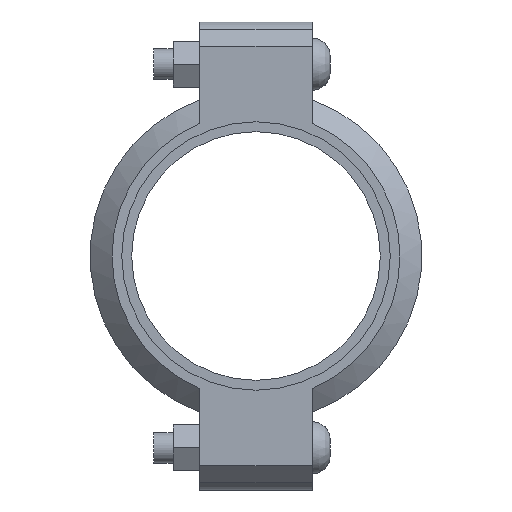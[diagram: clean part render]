
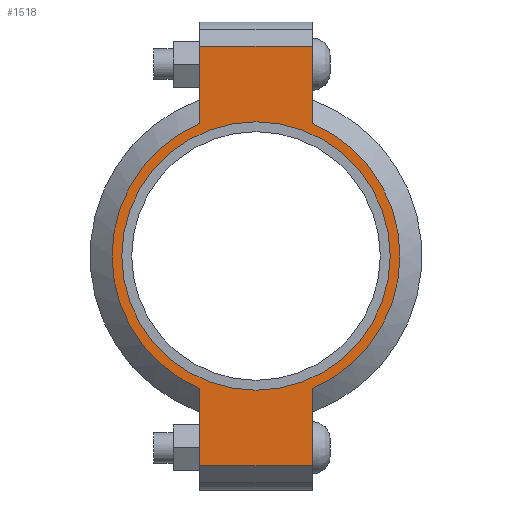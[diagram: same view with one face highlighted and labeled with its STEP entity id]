
A CAD part, left-side view. The second image highlights one B-rep face of the part: STEP entity #1518.
In plain terms, the highlighted planar face has unit normal (-1, 0, 0) as drawn and (0, 0, 1) by its records, which use the part's own axes.
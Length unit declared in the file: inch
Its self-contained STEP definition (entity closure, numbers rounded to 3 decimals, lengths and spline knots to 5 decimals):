
#142=LINE('',#2658,#235);
#150=LINE('',#2694,#243);
#157=LINE('',#2715,#250);
#166=LINE('',#2747,#259);
#167=LINE('',#2751,#260);
#168=LINE('',#2753,#261);
#235=VECTOR('',#2174,0.3937);
#243=VECTOR('',#2190,0.3937);
#250=VECTOR('',#2209,0.3937);
#259=VECTOR('',#2234,0.3937);
#260=VECTOR('',#2239,0.3937);
#261=VECTOR('',#2240,0.3937);
#317=FACE_BOUND('',#495,.T.);
#389=FACE_OUTER_BOUND('',#494,.T.);
#494=EDGE_LOOP('',(#1259,#1260,#1261,#1262,#1263,#1264,#1265,#1266));
#495=EDGE_LOOP('',(#1267));
#567=CIRCLE('',#1746,2.75);
#593=CIRCLE('',#1805,2.95);
#594=CIRCLE('',#1806,2.95);
#659=VERTEX_POINT('',#2474);
#702=VERTEX_POINT('',#2655);
#703=VERTEX_POINT('',#2657);
#714=VERTEX_POINT('',#2689);
#715=VERTEX_POINT('',#2693);
#722=VERTEX_POINT('',#2712);
#723=VERTEX_POINT('',#2714);
#733=VERTEX_POINT('',#2750);
#734=VERTEX_POINT('',#2752);
#815=EDGE_CURVE('',#659,#659,#567,.T.);
#876=EDGE_CURVE('',#703,#702,#142,.T.);
#890=EDGE_CURVE('',#715,#714,#150,.T.);
#900=EDGE_CURVE('',#723,#722,#157,.T.);
#915=EDGE_CURVE('',#715,#702,#166,.T.);
#916=EDGE_CURVE('',#714,#723,#593,.T.);
#917=EDGE_CURVE('',#733,#722,#167,.T.);
#918=EDGE_CURVE('',#733,#734,#168,.T.);
#919=EDGE_CURVE('',#734,#703,#594,.T.);
#1259=ORIENTED_EDGE('',*,*,#915,.F.);
#1260=ORIENTED_EDGE('',*,*,#890,.T.);
#1261=ORIENTED_EDGE('',*,*,#916,.T.);
#1262=ORIENTED_EDGE('',*,*,#900,.T.);
#1263=ORIENTED_EDGE('',*,*,#917,.F.);
#1264=ORIENTED_EDGE('',*,*,#918,.T.);
#1265=ORIENTED_EDGE('',*,*,#919,.T.);
#1266=ORIENTED_EDGE('',*,*,#876,.T.);
#1267=ORIENTED_EDGE('',*,*,#815,.T.);
#1360=PLANE('',#1804);
#1518=ADVANCED_FACE('',(#389,#317),#1360,.T.);
#1746=AXIS2_PLACEMENT_3D('',#2476,#2050,#2051);
#1804=AXIS2_PLACEMENT_3D('',#2748,#2235,#2236);
#1805=AXIS2_PLACEMENT_3D('',#2749,#2237,#2238);
#1806=AXIS2_PLACEMENT_3D('',#2754,#2241,#2242);
#2050=DIRECTION('center_axis',(0.,0.,-1.));
#2051=DIRECTION('ref_axis',(1.,0.,0.));
#2174=DIRECTION('',(1.,0.,0.));
#2190=DIRECTION('',(-1.,0.,0.));
#2209=DIRECTION('',(-1.,0.,0.));
#2234=DIRECTION('',(0.,-1.,0.));
#2235=DIRECTION('center_axis',(0.,0.,1.));
#2236=DIRECTION('ref_axis',(-1.,0.,0.));
#2237=DIRECTION('center_axis',(0.,0.,1.));
#2238=DIRECTION('ref_axis',(1.,0.,0.));
#2239=DIRECTION('',(0.,1.,0.));
#2240=DIRECTION('',(1.,0.,0.));
#2241=DIRECTION('center_axis',(0.,0.,1.));
#2242=DIRECTION('ref_axis',(1.,0.,0.));
#2474=CARTESIAN_POINT('',(-2.75,0.,1.065));
#2476=CARTESIAN_POINT('Origin',(0.,0.,1.065));
#2655=CARTESIAN_POINT('',(4.295,-1.15,1.065));
#2657=CARTESIAN_POINT('',(2.71662,-1.15,1.065));
#2658=CARTESIAN_POINT('',(4.795,-1.15,1.065));
#2689=CARTESIAN_POINT('',(2.71662,1.15,1.065));
#2693=CARTESIAN_POINT('',(4.295,1.15,1.065));
#2694=CARTESIAN_POINT('',(-4.795,1.15,1.065));
#2712=CARTESIAN_POINT('',(-4.295,1.15,1.065));
#2714=CARTESIAN_POINT('',(-2.71662,1.15,1.065));
#2715=CARTESIAN_POINT('',(-4.795,1.15,1.065));
#2747=CARTESIAN_POINT('',(4.295,-0.575,1.065));
#2748=CARTESIAN_POINT('Origin',(0.,0.,
1.065));
#2749=CARTESIAN_POINT('Origin',(0.,0.,1.065));
#2750=CARTESIAN_POINT('',(-4.295,-1.15,1.065));
#2751=CARTESIAN_POINT('',(-4.295,0.575,1.065));
#2752=CARTESIAN_POINT('',(-2.71662,-1.15,1.065));
#2753=CARTESIAN_POINT('',(4.795,-1.15,1.065));
#2754=CARTESIAN_POINT('Origin',(0.,0.,1.065));
